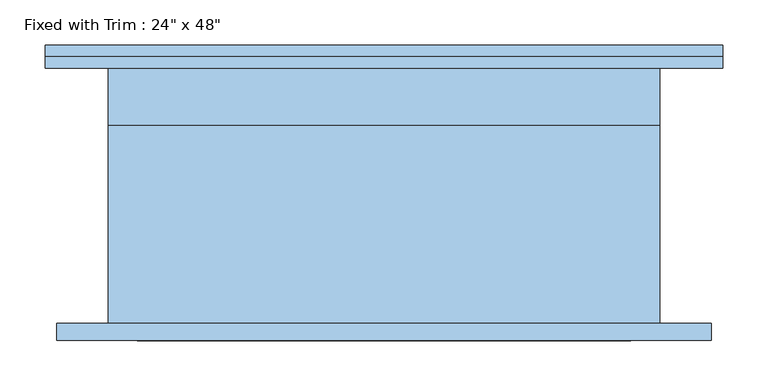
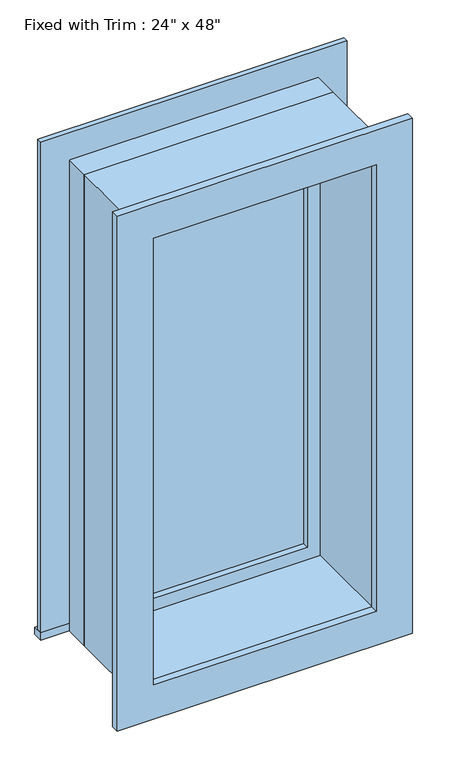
"""IFC4 building model written with IfcOpenShell, lengths in millimetres: window geometry."""

from ifc_helpers import new_model, si_unit, frame, origin, place, context, project, spatial, polyline, outline, extrude, source, transform, mapped, element, save


def window_b85827b5(model_context):
    return source(origin(), model_context, "Body", "SweptSolid", [
        extrude(outline(polyline([(-412.75, 166.6875), (336.55, 166.6875), (336.55, 141.2875), (-412.75, 141.2875), (-412.75, 166.6875)])), frame((0.0, 0.0, 914.4), z_axis=(0.0, 0.0, 1.0), x_axis=(1.0, 0.0, 0.0)), (0.0, 0.0, 1.0), 19.05),
        extrude(outline(polyline([(2114.55, -323.85), (2114.55, 247.65), (933.45, 247.65), (933.45, 336.55), (2203.45, 336.55), (2203.45, -412.75), (933.45, -412.75), (933.45, -323.85), (2114.55, -323.85)])), frame((0.0, 141.2875, 0.0), z_axis=(0.0, 1.0, 0.0), x_axis=(0.0, 0.0, 1.0)), (0.0, 0.0, 1.0), 12.7),
        extrude(outline(polyline([(2190.75, 323.85), (2190.75, -400.05), (857.25, -400.05), (857.25, 323.85), (2190.75, 323.85)]), holes=[polyline([(2101.85, 234.95), (946.15, 234.95), (946.15, -311.15), (2101.85, -311.15), (2101.85, 234.95)])]), frame((0.0, -160.3375, 0.0), z_axis=(0.0, 1.0, 0.0), x_axis=(0.0, 0.0, 1.0)), (0.0, 0.0, 1.0), 19.05),
        extrude(outline(polyline([(203.2, 93.6625), (-279.4, 93.6625), (-279.4, 106.3625), (203.2, 106.3625), (203.2, 93.6625)])), frame((0.0, 0.0, 977.9), z_axis=(0.0, 0.0, 1.0), x_axis=(1.0, 0.0, 0.0)), (0.0, 0.0, 1.0), 1092.2),
        extrude(outline(polyline([(2114.55, -323.85), (933.45, -323.85), (933.45, 247.65), (2114.55, 247.65), (2114.55, -323.85)]), holes=[polyline([(2070.1, -279.4), (2070.1, 203.2), (977.9, 203.2), (977.9, -279.4), (2070.1, -279.4)])]), frame((0.0, 77.7875, 0.0), z_axis=(0.0, 1.0, 0.0), x_axis=(0.0, 0.0, 1.0)), (0.0, 0.0, 1.0), 44.45),
        extrude(outline(polyline([(2133.6, -342.9), (914.4, -342.9), (914.4, 266.7), (2133.6, 266.7), (2133.6, -342.9)]), holes=[polyline([(2101.85, -311.15), (2101.85, 234.95), (946.15, 234.95), (946.15, -311.15), (2101.85, -311.15)])]), frame((0.0, -141.2875, 0.0), z_axis=(0.0, 1.0, 0.0), x_axis=(0.0, 0.0, 1.0)), (0.0, 0.0, 1.0), 219.075),
        extrude(outline(polyline([(2133.6, 266.7), (2133.6, -342.9), (914.4, -342.9), (914.4, 266.7), (2133.6, 266.7)]), holes=[polyline([(2114.55, 247.65), (933.45, 247.65), (933.45, -323.85), (2114.55, -323.85), (2114.55, 247.65)])]), frame((0.0, 77.7875, 0.0), z_axis=(0.0, 1.0, 0.0), x_axis=(0.0, 0.0, 1.0)), (0.0, 0.0, 1.0), 63.5),
    ])


if __name__ == "__main__":
    model = new_model("IFC4")
    model_context = context("Model", 3, world=origin())
    ifc_project = project(units=[si_unit("LENGTHUNIT", "METRE", prefix="MILLI")], contexts=[model_context])
    site = spatial("IfcSite", under=ifc_project)
    building = spatial("IfcBuilding", under=site)
    placement = place(None, origin())
    window_shape = window_b85827b5(model_context)
    element("IfcWindow", 1, ObjectType="Fixed with Trim : 24\" x 48\"", at=placement, inside=building, context=model_context, shape_type="MappedRepresentation", body=[
        mapped(window_shape, transform((0.0, 0.0, 0.0), x_axis=(1.0, 0.0, 0.0), y_axis=(0.0, 1.0, 0.0), z_axis=(0.0, 0.0, 1.0))),
    ])
    save(model, "model.ifc")
